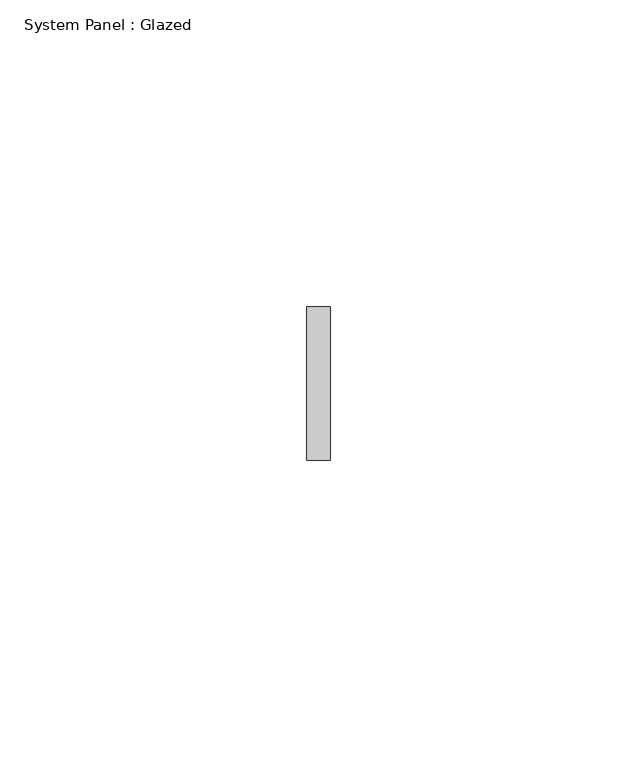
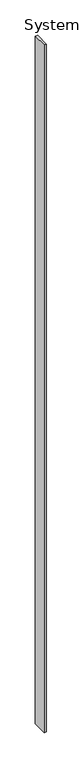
"""IFC4 building model written with IfcOpenShell, lengths in millimetres: plate geometry, System Panel : Glazed."""

from ifc_helpers import new_model, si_unit, origin, origin_with_axes, place, context, project, spatial, polyline, outline, extrude, source, transform, mapped, element, save


def system_panel_glazed_d0e55b34(model_context):
    return source(origin(), model_context, "Body", "SweptSolid", [
        extrude(outline(polyline([(1.9081169, -12.5), (-1.9081169, -12.5), (-1.9081169, 12.5), (1.9081169, 12.5), (1.9081169, -12.5)])), origin_with_axes(), (0.0, 0.0, 1.0), 1190.0),
    ])


if __name__ == "__main__":
    model = new_model("IFC4")
    model_context = context("Model", 3, world=origin())
    ifc_project = project(units=[si_unit("LENGTHUNIT", "METRE", prefix="MILLI")], contexts=[model_context])
    site = spatial("IfcSite", under=ifc_project)
    building = spatial("IfcBuilding", under=site)
    placement = place(None, origin())
    system_panel_glazed_shape = system_panel_glazed_d0e55b34(model_context)
    element("IfcPlate", 1, ObjectType="System Panel : Glazed", at=placement, inside=building, context=model_context, shape_type="MappedRepresentation", body=[
        mapped(system_panel_glazed_shape, transform((0.0, 0.0, 0.0), x_axis=(1.0, 0.0, 0.0), y_axis=(0.0, 1.0, 0.0), z_axis=(0.0, 0.0, 1.0))),
    ])
    save(model, "model.ifc")
